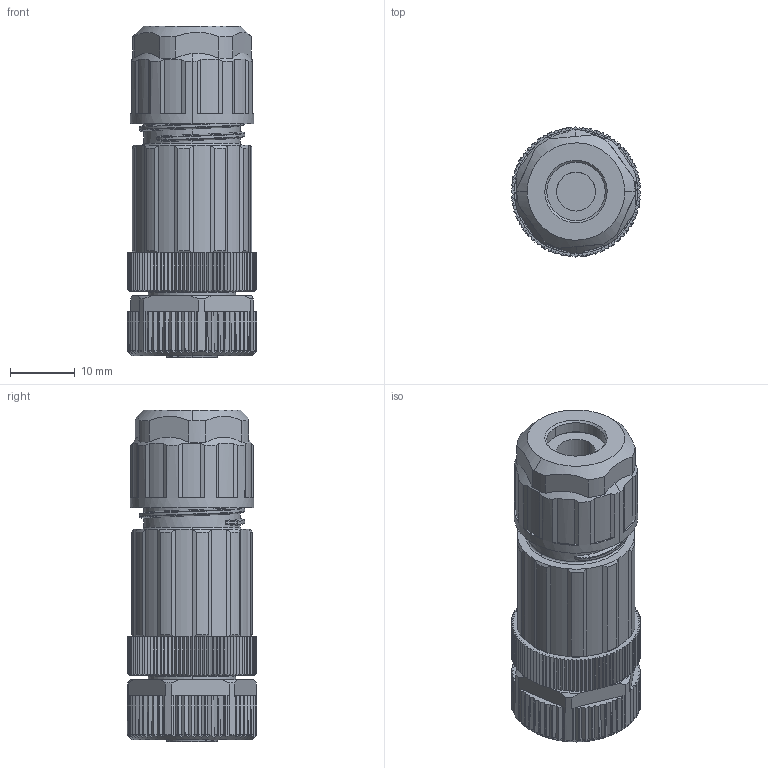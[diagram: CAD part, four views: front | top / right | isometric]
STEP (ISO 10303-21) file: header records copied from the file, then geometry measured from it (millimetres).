
FILE_DESCRIPTION (( 'STEP AP203' ), '1' );
FILE_NAME ('64F001.STEP', '2023-06-24T07:03:47', ( '' ), ( '' ), 'SwSTEP 2.0', 'SolidWorks 2016', '' );
FILE_SCHEMA (( 'CONFIG_CONTROL_DESIGN' ));
Products named in the file (1): 64F001
Bounding box: 20 x 20 x 51.09 mm (x, y, z)
Volume: 12172.2 mm3; surface area: 7453.7 mm2
Topology: 1 solids, 2 shells, 1355 faces, 3819 edges, 2480 vertices
Faces by surface type: plane 651, cylinder 306, cone 290, bspline 83, torus 25
Entity records: 61406 total; most frequent: CARTESIAN_POINT 29473, ORIENTED_EDGE 7616, DIRECTION 5327, EDGE_CURVE 3808, VERTEX_POINT 2480, AXIS2_PLACEMENT_3D 1948, B_SPLINE_CURVE_WITH_KNOTS 1685, LINE 1431
